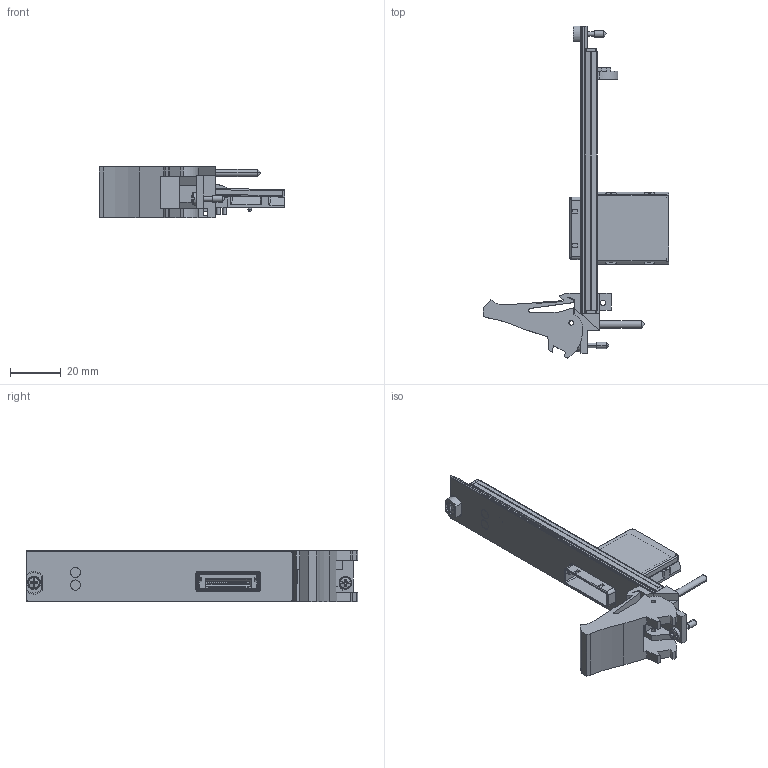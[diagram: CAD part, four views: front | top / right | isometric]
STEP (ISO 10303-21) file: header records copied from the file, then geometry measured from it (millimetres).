
FILE_DESCRIPTION((''),'2;1');
FILE_NAME('CD_PXIE-8370','2013-09-24T',('jjorden'),(''),'PRO/ENGINEER BY PARAMETRIC TECHNOLOGY CORPORATION, 2011490','PRO/ENGINEER BY PARAMETRIC TECHNOLOGY CORPORATION, 2011490','');
FILE_SCHEMA(('CONFIG_CONTROL_DESIGN'));
Products named in the file (1): CD_PXIE-8370
Bounding box: 73.03 x 130.5 x 20.31 mm (x, y, z)
Volume: 17762.1 mm3; surface area: 21486.2 mm2
Topology: 4 solids, 4 shells, 2125 faces, 6078 edges, 3992 vertices
Faces by surface type: plane 1556, cylinder 523, cone 24, sphere 12, torus 10
Entity records: 69453 total; most frequent: CARTESIAN_POINT 13072, ORIENTED_EDGE 12132, DIRECTION 11230, EDGE_CURVE 6066, VECTOR 4864, LINE 4864, VERTEX_POINT 3992, AXIS2_PLACEMENT_3D 3183
